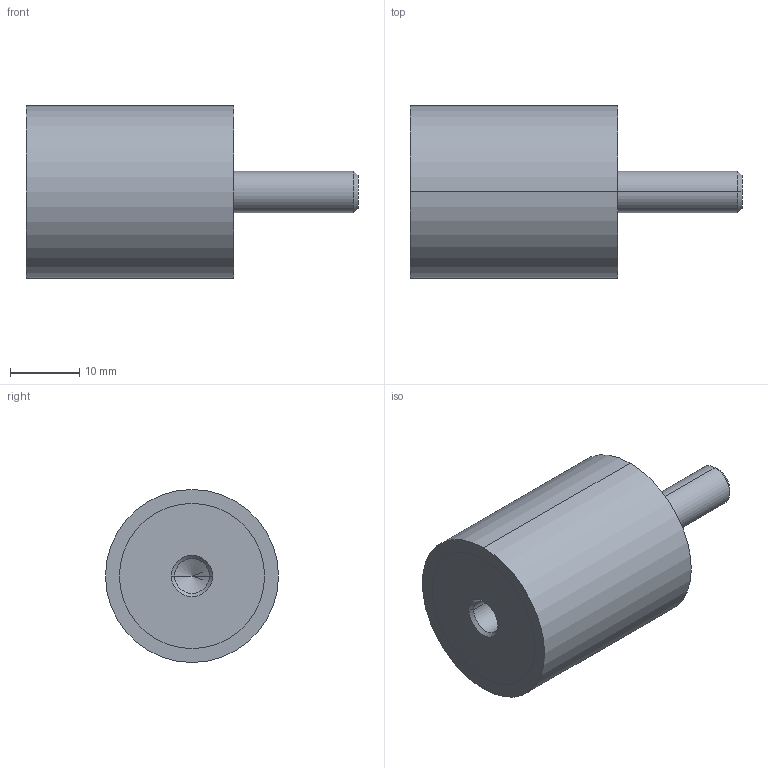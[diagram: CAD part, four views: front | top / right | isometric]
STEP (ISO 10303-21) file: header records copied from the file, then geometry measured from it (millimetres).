
FILE_DESCRIPTION (( 'STEP AP214' ), '1' );
FILE_NAME ('351-25-30-M6-ES-55.step', '2025-07-23T09:50:07', ( '' ), ( '' ), 'SwSTEP 2.0', 'SolidWorks 2022', '' );
FILE_SCHEMA (( 'AUTOMOTIVE_DESIGN' ));
Length unit declared in the file: millimetre
Products named in the file (1): 351-25-30-M6-ES-55
Bounding box: 48 x 25 x 25 mm (x, y, z)
Volume: 15076.5 mm3; surface area: 3779.4 mm2
Topology: 1 solids, 1 shells, 24 faces, 48 edges, 29 vertices
Faces by surface type: cylinder 12, cone 6, plane 6
Entity records: 740 total; most frequent: DIRECTION 124, CARTESIAN_POINT 100, ORIENTED_EDGE 92, AXIS2_PLACEMENT_3D 53, EDGE_CURVE 46, EDGE_LOOP 29, VERTEX_POINT 29, CIRCLE 28
